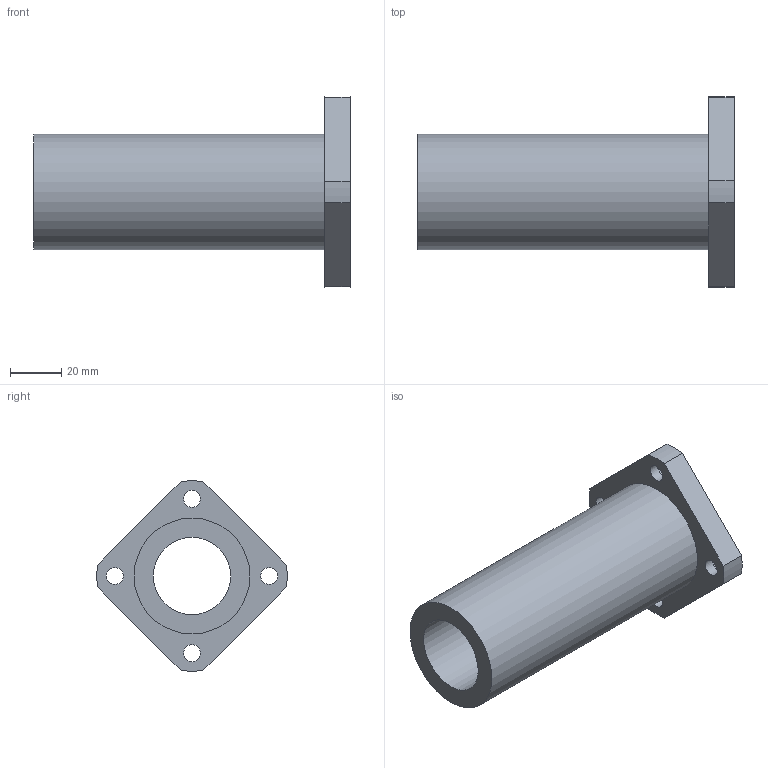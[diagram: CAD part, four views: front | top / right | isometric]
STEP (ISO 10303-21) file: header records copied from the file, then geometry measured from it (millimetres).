
FILE_DESCRIPTION(/* description */ ('Unknown'),/* implementation_level */ '2;1');
FILE_NAME(/* name */ 'LMK30LUU',/* time_stamp */ '2025-02-04T10:45:46+08:00',/* author */ ('Unknown'),/* organization */ ('Unknown'),/* preprocessor_version */ 'ST-DEVELOPER v18.102',/* originating_system */ 'Solid Edge',/* authorisation */ 'Unknown');
FILE_SCHEMA (('AUTOMOTIVE_DESIGN {1 0 10303 214 3 1 1}'));
Length unit declared in the file: millimetre
Products named in the file (1): LMK30LUU
Bounding box: 123 x 73.95 x 73.95 mm (x, y, z)
Volume: 122893.3 mm3; surface area: 35820.5 mm2
Topology: 1 solids, 1 shells, 25 faces, 54 edges, 36 vertices
Faces by surface type: cylinder 14, plane 11
Full cylindrical faces by diameter (mm): 6.6 x4, 11 x4, 30 x1, 45 x1
Entity records: 696 total; most frequent: DIRECTION 124, CARTESIAN_POINT 106, ORIENTED_EDGE 88, AXIS2_PLACEMENT_3D 54, EDGE_LOOP 50, FACE_BOUND 50, EDGE_CURVE 44, VERTEX_POINT 36
